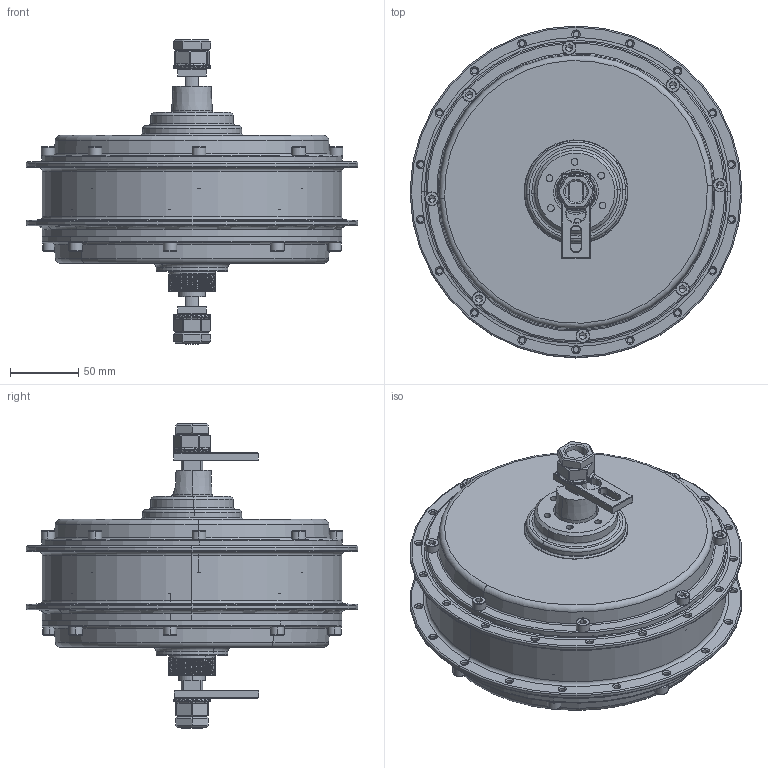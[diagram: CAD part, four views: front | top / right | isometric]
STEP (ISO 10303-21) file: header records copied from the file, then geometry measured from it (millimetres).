
FILE_DESCRIPTION (( 'STEP AP214' ), '1' );
FILE_NAME ('QS205 SBORKA.STEP', '2021-04-15T13:50:52', ( 'Alien' ), ( '' ), 'SwSTEP 2.0', 'SolidWorks 2017', '' );
FILE_SCHEMA (( 'AUTOMOTIVE_DESIGN' ));
Length unit declared in the file: millimetre
Products named in the file (11): NUT M16x8; NUT M16x8 flanec; HUB cover2 gear side v2; HUB cover1 DiskBreak side; QS205 SBORKA; Outrunner HUB magnets; Keeper QSmotor plate; Stator QS205; socket head cap screw_iso_ISO 4762 M6 x 25 - 25N; Shaft main; Magnet NeB 3.5x19x50 32pcs 205mm
Assembly tree (28 placements, depth 2):
  QS205 SBORKA
    Outrunner HUB magnets
    Magnet NeB 3.5x19x50 32pcs 205mm
    HUB cover1 DiskBreak side
    HUB cover2 gear side v2
    Shaft main
    socket head cap screw_iso_ISO 4762 M6 x 25 - 25N  x16
    Stator QS205
    Keeper QSmotor plate  x2
    NUT M16x8  x2
    NUT M16x8 flanec  x2
Bounding box: 244 x 244 x 223.8 mm (x, y, z)
Volume: 1625605 mm3; surface area: 696056.1 mm2
Topology: 90 solids, 90 shells, 2413 faces, 6062 edges, 3822 vertices
Faces by surface type: plane 1384, cylinder 485, cone 252, bspline 184, torus 108
Entity records: 96129 total; most frequent: CARTESIAN_POINT 51701, ORIENTED_EDGE 8934, DIRECTION 7912, EDGE_CURVE 4467, VERTEX_POINT 2874, LINE 2676, VECTOR 2676, AXIS2_PLACEMENT_3D 2618
